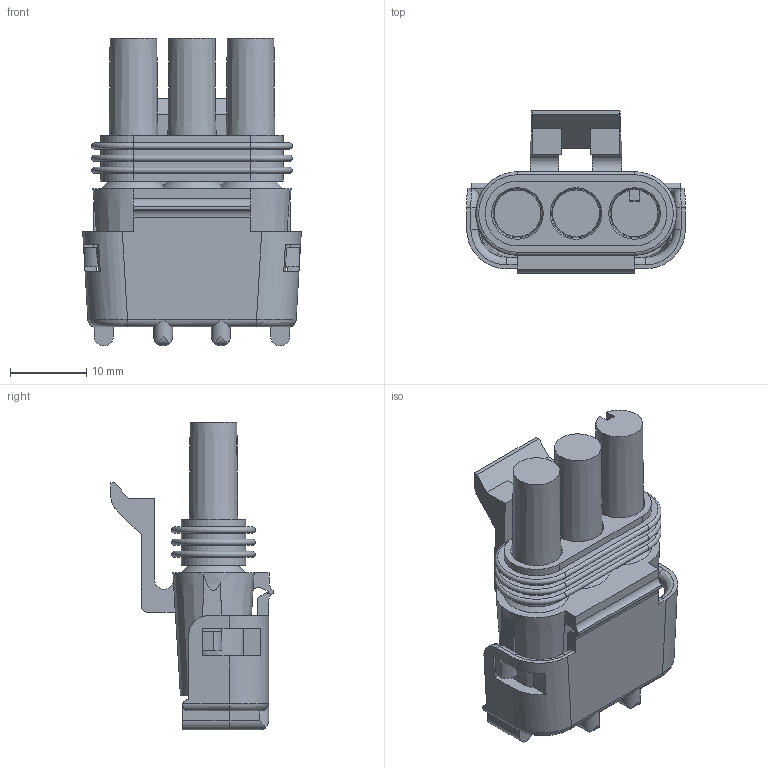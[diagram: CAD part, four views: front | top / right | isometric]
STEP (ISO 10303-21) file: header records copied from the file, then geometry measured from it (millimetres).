
FILE_DESCRIPTION(/* description */ (''),/* implementation_level */ '2;1');
FILE_NAME(/* name */ '12015795-ENV10_02-CONN.stp',/* time_stamp */ '2021-09-06T17:31:11+05:00',/* author */ (''),/* organization */ (''),/* preprocessor_version */ 'ST-DEVELOPER v16',/* originating_system */ 'SIEMENS PLM Software NX 11.0',/* authorisation */ '');
FILE_SCHEMA (('AP203_CONFIGURATION_CONTROLLED_3D_DESIGN_OF_MECHANICAL_PARTS_AND_ASSEMBLIES_MIM_LF { 1 0 10303 403 2 1 2}'));
Length unit declared in the file: millimetre
Products named in the file (1): hjcv4A68214C0bfe
Bounding box: 28.75 x 21.34 x 40.49 mm (x, y, z)
Volume: 7948.1 mm3; surface area: 5707.5 mm2
Topology: 2 solids, 2 shells, 208 faces, 578 edges, 381 vertices
Faces by surface type: plane 114, cylinder 65, cone 17, bspline 6, torus 6
Entity records: 7089 total; most frequent: CARTESIAN_POINT 1690, ORIENTED_EDGE 1104, DIRECTION 1102, EDGE_CURVE 552, AXIS2_PLACEMENT_3D 388, VERTEX_POINT 370, LINE 326, VECTOR 326
